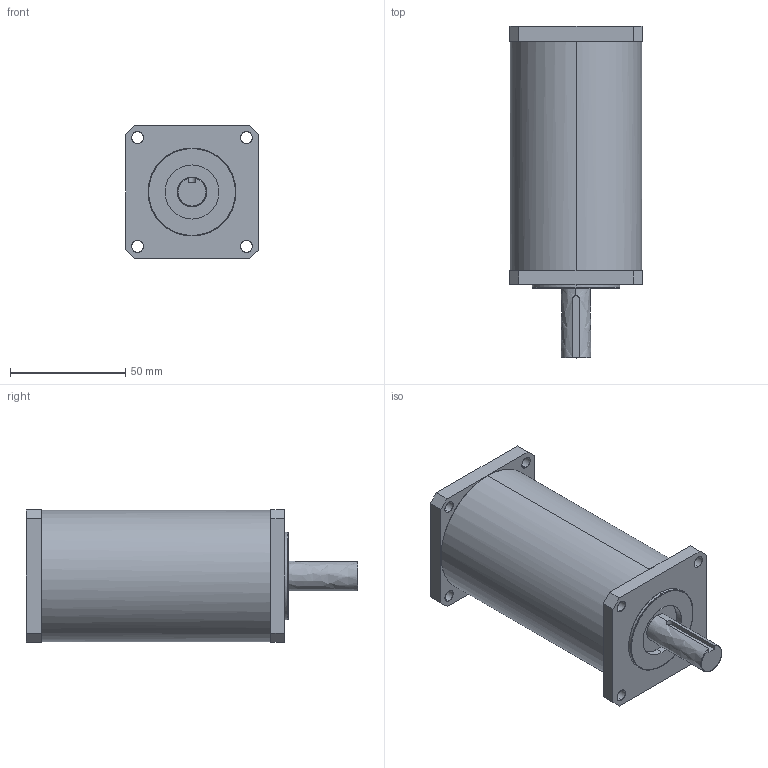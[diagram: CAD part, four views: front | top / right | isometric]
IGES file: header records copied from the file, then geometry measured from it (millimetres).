
Start section: Comment
Global section: file name: LT0134.igs; native system:  By UGS Corp.; preprocessor: XPlus GENERIC/IGES 3.0; author: Author; organization: Title; date: 20090505.121944; units: millimetre
Bounding box: 57.4 x 143.8 x 57.4 mm (x, y, z)
Surface area: 40360.2 mm2 (no closed solid volume)
Topology: 0 solids, 0 shells, 138 faces, 660 edges, 660 vertices
Faces by surface type: bspline 138
